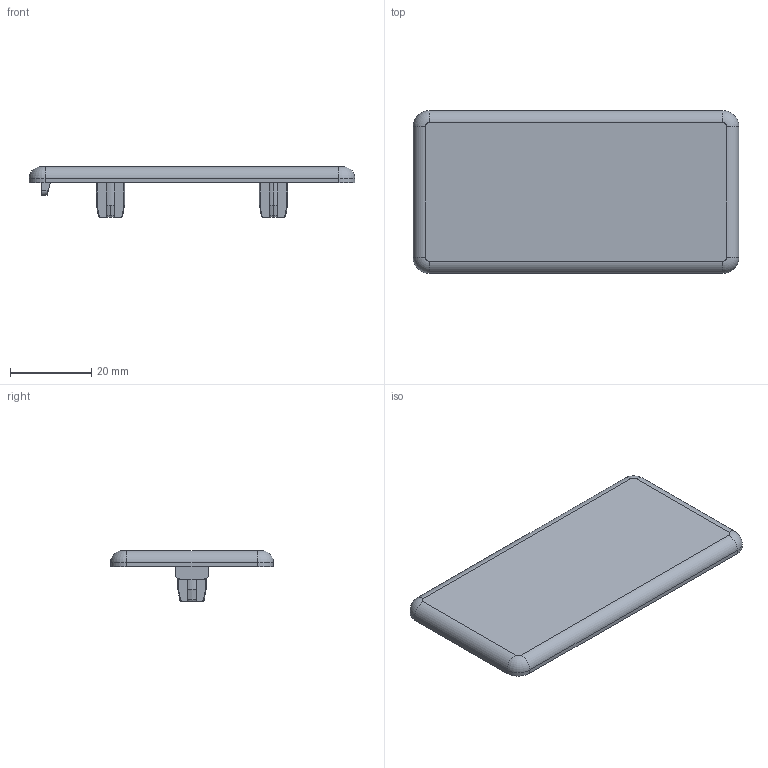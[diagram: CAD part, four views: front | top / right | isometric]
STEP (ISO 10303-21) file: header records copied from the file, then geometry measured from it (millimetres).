
FILE_DESCRIPTION (( 'STEP AP203' ), '1' );
FILE_NAME ('0108AK8040.STEP', '2024-03-07T13:33:28', ( 'Windows-Benutzer' ), ( '' ), 'SwSTEP 2.0', 'SolidWorks 2023', '' );
FILE_SCHEMA (( 'CONFIG_CONTROL_DESIGN' ));
Length unit declared in the file: millimetre
Products named in the file (1): 0108AK8040
Bounding box: 80 x 40 x 12.5 mm (x, y, z)
Volume: 10307.6 mm3; surface area: 7773.2 mm2
Topology: 1 solids, 1 shells, 97 faces, 264 edges, 172 vertices
Faces by surface type: plane 47, cylinder 26, bspline 10, cone 10, torus 4
Entity records: 3301 total; most frequent: CARTESIAN_POINT 848, ORIENTED_EDGE 528, DIRECTION 464, EDGE_CURVE 264, VERTEX_POINT 172, AXIS2_PLACEMENT_3D 156, VECTOR 152, LINE 152
